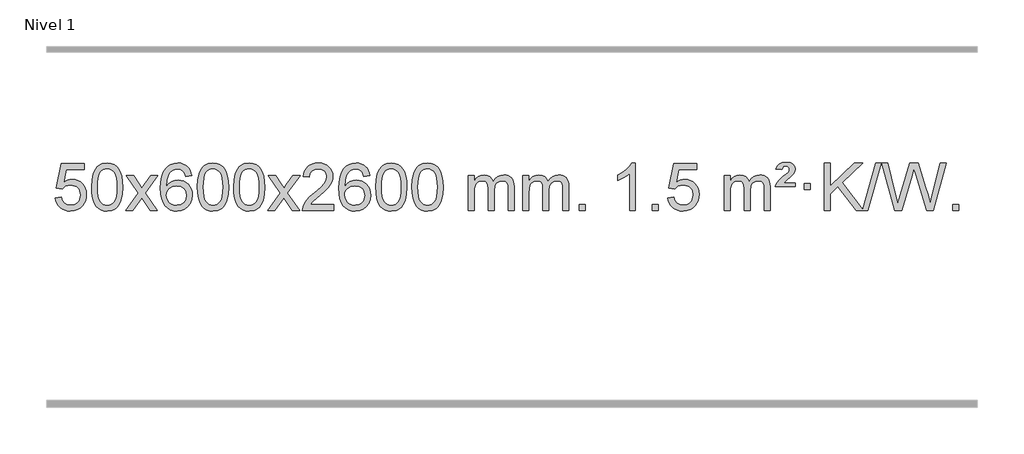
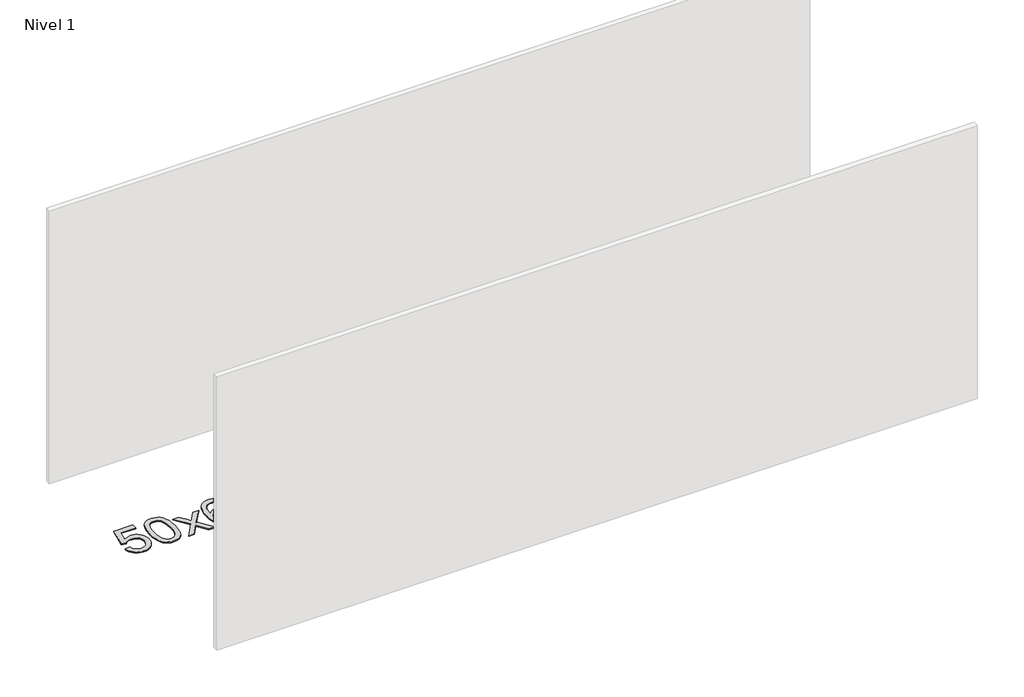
# One storey, part 7 of 9: 1 proxy.
"""IFC4 building model written with IfcOpenShell, lengths in millimetres."""

from ifc_helpers import new_model, si_unit, origin, origin_with_axes, place, context, project, spatial, polyline, outline, extrude, element, save

model = new_model("IFC4")

# Units and contexts
model_context = context("Model", 3, world=origin())
ifc_project = project(units=[si_unit("LENGTHUNIT", "METRE", prefix="MILLI")], contexts=[model_context])

# Site, building, storey
site = spatial("IfcSite", under=ifc_project)
building = spatial("IfcBuilding", under=site)
storey = spatial("IfcBuildingStorey", under=building, Name="Nivel 1", Elevation=0.0)

# Proxy
placement = place(None, origin())
element("IfcBuildingElementProxy", 1, Name="Texto de modelo 1", ObjectType="Texto de modelo 1", at=placement, inside=storey, context=model_context, shape_type="SweptSolid", body=[
    extrude(outline(polyline([(5243.8302895, -284.8446235), (5294.0584446, -278.5661041), (5303.28002, -308.7201649), (5319.3687259, -330.3148381), (5342.250986, -343.3010725), (5371.8532239, -347.6298173), (5390.9830876, -346.1245668), (5407.8566085, -341.6088153), (5422.4737864, -334.0825628), (5434.8346214, -323.5458094), (5444.6632021, -310.519721), (5451.6836168, -295.5254641), (5457.2999486, -259.6324441), (5452.0392361, -225.8363514), (5445.4633454, -211.9181493), (5436.2570985, -199.9865099), (5424.3898385, -190.4154467), (5409.8309085, -183.5789729), (5372.6380388, -178.1097939), (5348.271988, -180.2925604), (5328.5412503, -186.8408599), (5312.7836382, -196.8717757), (5300.336964, -209.5023908), (5250.1088089, -203.2238715), (5294.0584446, 3.9672682), (5488.6925455, 3.9672682), (5488.6925455, -46.2608869), (5334.6726169, -46.2608869), (5313.1883084, -156.919791), (5330.9140892, -144.2155994), (5349.0690656, -135.1411769), (5367.6532377, -129.6965234), (5386.6666055, -127.8816388), (5411.1276925, -130.1318504), (5433.5960854, -136.882485), (5454.0717841, -148.1335427), (5472.5547887, -163.8850234), (5487.855614, -183.1743027), (5498.7847749, -205.038756), (5505.3422715, -229.4783832), (5507.5281037, -256.4931844), (5505.559935, -282.5147042), (5499.655429, -306.7213394), (5489.8145856, -329.1130902), (5476.0374049, -349.6899565), (5455.166233, -370.7634634), (5430.812445, -385.8159684), (5402.9760407, -394.8474714), (5371.6570201, -397.8579724), (5345.7366679, -395.9235262), (5322.3240446, -390.1201877), (5301.4191502, -380.447957), (5283.0219848, -366.9068338), (5267.7150281, -350.1712688), (5256.08076, -330.915712), (5248.1191805, -309.1401636), (5243.8302895, -284.8446235)])), origin_with_axes(), (0.0, 0.0, 1.0), 10.0),
    extrude(outline(polyline([(5551.4777394, -193.9041943), (5555.1688221, -129.5861588), (5566.2420701, -78.2911459), (5584.5871189, -39.2343407), (5596.4451819, -24.0009605), (5610.0936039, -11.6309284), (5625.5783702, -2.0598651), (5642.9454661, 4.7766086), (5683.3266464, 10.2457876), (5714.277785, 7.008426), (5741.9915619, -2.7036586), (5765.1681276, -18.5103217), (5782.5076323, -40.0314184), (5795.6042314, -67.0830078), (5806.05208, -99.4811488), (5812.8946851, -140.6226186), (5815.1755535, -193.9041943), (5811.521259, -257.8543477), (5800.5583756, -309.0267333), (5782.3236913, -348.1203266), (5770.4932195, -363.3996922), (5756.8539945, -375.8341036), (5741.3508341, -385.4695462), (5723.928556, -392.3520052), (5683.3266464, -397.8579724), (5655.6619204, -395.4667394), (5631.1364541, -388.2930405), (5609.7502474, -376.3368757), (5591.5033004, -359.5982449), (5573.9921175, -329.3399508), (5561.4841296, -291.6381776), (5553.9793369, -246.4929255), (5551.4777394, -193.9041943)]), holes=[polyline([(5601.7058944, -193.8060924), (5603.1774224, -237.4706195), (5607.5920064, -272.8148822), (5614.9496463, -299.8388804), (5625.2503421, -318.5426142), (5637.709279, -331.2682656), (5651.5416421, -340.3580165), (5666.7474312, -345.8118671), (5683.3266464, -347.6298173), (5699.9058617, -345.8057357), (5715.1116508, -340.3334911), (5728.9440138, -331.2130833), (5741.4029507, -318.4445124), (5751.7036466, -299.7101217), (5759.0612865, -272.6922549), (5763.4758705, -237.3909118), (5764.9473984, -193.8060924), (5763.5249214, -151.2973278), (5759.2574902, -116.5753989), (5752.145105, -89.6403055), (5742.1877657, -70.4920476), (5729.9372952, -57.1440625), (5715.9455167, -47.6097875), (5700.21243, -41.8892225), (5682.7380352, -39.9823675), (5666.2446591, -41.6623619), (5651.2963874, -46.7023452), (5637.89322, -55.1023175), (5626.0351571, -66.8622786), (5615.3911047, -87.708925), (5607.7882101, -115.8151094), (5603.2264734, -151.1808319), (5601.7058944, -193.8060924)])]), origin_with_axes(), (0.0, 0.0, 1.0), 10.0),
    extrude(outline(polyline([(5840.2896311, -391.579453), (5947.6130718, -243.2494325), (5846.5681504, -96.4890419), (5906.9988995, -96.4890419), (5955.7555266, -167.122385), (5978.5151594, -200.4770192), (5998.2336343, -173.2047007), (6053.7592901, -96.4890419), (6114.1900392, -96.4890419), (6008.0438209, -243.2494325), (6110.2659646, -391.579453), (6049.8352155, -391.579453), (5988.3253459, -302.4048574), (5977.0436314, -286.1199477), (5900.7203801, -391.579453), (5840.2896311, -391.579453)])), origin_with_axes(), (0.0, 0.0, 1.0), 10.0),
    extrude(outline(polyline([(6399.0778563, -96.4890419), (6348.8497012, -102.7675613), (6340.7562973, -77.874213), (6329.8179393, -60.8780648), (6307.0337811, -45.2062918), (6279.4916824, -39.9823675), (6256.1434384, -43.0235253), (6234.1686206, -52.1469988), (6215.2962742, -71.3627017), (6199.8820186, -97.8134171), (6189.4709581, -135.227016), (6185.6081972, -187.3313693), (6205.7558678, -163.8237098), (6229.9011894, -147.2567573), (6256.6952614, -137.434308), (6284.7891831, -134.1601582), (6308.922242, -136.398107), (6331.1913654, -143.1119534), (6351.5965534, -154.3016975), (6370.137806, -169.9673391), (6385.5459302, -189.1769106), (6396.5517332, -210.9984443), (6403.155215, -235.4319401), (6405.3563756, -262.4773982), (6401.2115718, -298.4439945), (6388.7771604, -331.786366), (6369.0832109, -360.0642287), (6343.159793, -380.8372987), (6312.184129, -393.602804), (6277.3334413, -397.8579724), (6247.3909126, -395.0375437), (6220.3485203, -386.5762579), (6196.2062643, -372.4741147), (6174.9641448, -352.7311143), (6157.6460999, -326.5133908), (6145.2760678, -292.9870783), (6137.8540485, -252.1521768), (6135.3800421, -204.0086864), (6138.1268943, -150.0342663), (6146.367451, -103.9693092), (6160.1017122, -65.8138149), (6179.3296778, -35.5677835), (6200.1701928, -15.5243462), (6224.3339085, -1.2076052), (6251.820825, 7.3824394), (6282.6309421, 10.2457876), (6305.7645882, 8.4738227), (6326.7032051, 3.1579278), (6345.4467927, -5.7018969), (6361.9953511, -18.1056515), (6375.9012906, -33.6364031), (6386.7170212, -51.8772186), (6394.4425431, -72.8280983), (6399.0778563, -96.4890419)]), holes=[polyline([(6185.6081972, -261.6925832), (6188.514465, -283.9494439), (6197.2332682, -305.2007605), (6210.7713257, -323.472233), (6228.1353558, -336.7895612), (6249.0923668, -344.9197533), (6273.4093667, -347.6298173), (6306.5555345, -342.0134855), (6320.4706709, -334.9930708), (6332.6138425, -325.1644901), (6342.4638829, -312.9262824), (6349.499626, -298.6769865), (6355.1282206, -264.1451299), (6349.5732024, -230.9989621), (6342.6294298, -217.3781312), (6332.9081481, -205.725469), (6320.7281883, -196.3904634), (6306.4083817, -189.7226022), (6271.3492275, -184.3883133), (6238.2521107, -189.7226022), (6210.5751219, -205.725469), (6199.6520924, -217.2248471), (6191.8499284, -230.3858254), (6187.16863, -245.2084042), (6185.6081972, -261.6925832)])]), origin_with_axes(), (0.0, 0.0, 1.0), 10.0),
    extrude(outline(polyline([(6449.3060113, -193.9041943), (6452.997094, -129.5861588), (6464.0703421, -78.2911459), (6482.4153909, -39.2343407), (6494.2734539, -24.0009605), (6507.9218759, -11.6309284), (6523.4066422, -2.0598651), (6540.7737381, 4.7766086), (6581.1549184, 10.2457876), (6612.1060569, 7.008426), (6639.8198339, -2.7036586), (6662.9963996, -18.5103217), (6680.3359043, -40.0314184), (6693.4325033, -67.0830078), (6703.880352, -99.4811488), (6710.7229571, -140.6226186), (6713.0038255, -193.9041943), (6709.349531, -257.8543477), (6698.3866475, -309.0267333), (6680.1519633, -348.1203266), (6668.3214915, -363.3996922), (6654.6822665, -375.8341036), (6639.1791061, -385.4695462), (6621.7568279, -392.3520052), (6581.1549184, -397.8579724), (6553.4901924, -395.4667394), (6528.964726, -388.2930405), (6507.5785194, -376.3368757), (6489.3315724, -359.5982449), (6471.8203894, -329.3399508), (6459.3124016, -291.6381776), (6451.8076089, -246.4929255), (6449.3060113, -193.9041943)]), holes=[polyline([(6499.5341664, -193.8060924), (6501.0056944, -237.4706195), (6505.4202783, -272.8148822), (6512.7779182, -299.8388804), (6523.0786141, -318.5426142), (6535.537551, -331.2682656), (6549.369914, -340.3580165), (6564.5757032, -345.8118671), (6581.1549184, -347.6298173), (6597.7341337, -345.8057357), (6612.9399228, -340.3334911), (6626.7722858, -331.2130833), (6639.2312227, -318.4445124), (6649.5319186, -299.7101217), (6656.8895585, -272.6922549), (6661.3041424, -237.3909118), (6662.7756704, -193.8060924), (6661.3531934, -151.2973278), (6657.0857622, -116.5753989), (6649.973377, -89.6403055), (6640.0160376, -70.4920476), (6627.7655672, -57.1440625), (6613.7737886, -47.6097875), (6598.040702, -41.8892225), (6580.5663072, -39.9823675), (6564.0729311, -41.6623619), (6549.1246594, -46.7023452), (6535.721492, -55.1023175), (6523.863429, -66.8622786), (6513.2193766, -87.708925), (6505.6164821, -115.8151094), (6501.0547453, -151.1808319), (6499.5341664, -193.8060924)])]), origin_with_axes(), (0.0, 0.0, 1.0), 10.0),
    extrude(outline(polyline([(6756.9534612, -193.9041943), (6760.6445439, -129.5861588), (6771.7177919, -78.2911459), (6790.0628407, -39.2343407), (6801.9209037, -24.0009605), (6815.5693257, -11.6309284), (6831.054092, -2.0598651), (6848.4211879, 4.7766086), (6888.8023682, 10.2457876), (6919.7535068, 7.008426), (6947.4672837, -2.7036586), (6970.6438494, -18.5103217), (6987.9833541, -40.0314184), (7001.0799532, -67.0830078), (7011.5278018, -99.4811488), (7018.3704069, -140.6226186), (7020.6512753, -193.9041943), (7016.9969808, -257.8543477), (7006.0340974, -309.0267333), (6987.7994131, -348.1203266), (6975.9689413, -363.3996922), (6962.3297163, -375.8341036), (6946.8265559, -385.4695462), (6929.4042778, -392.3520052), (6888.8023682, -397.8579724), (6861.1376422, -395.4667394), (6836.6121759, -388.2930405), (6815.2259692, -376.3368757), (6796.9790222, -359.5982449), (6779.4678393, -329.3399508), (6766.9598514, -291.6381776), (6759.4550587, -246.4929255), (6756.9534612, -193.9041943)]), holes=[polyline([(6807.1816162, -193.8060924), (6808.6531442, -237.4706195), (6813.0677282, -272.8148822), (6820.4253681, -299.8388804), (6830.7260639, -318.5426142), (6843.1850008, -331.2682656), (6857.0173639, -340.3580165), (6872.223153, -345.8118671), (6888.8023682, -347.6298173), (6905.3815835, -345.8057357), (6920.5873726, -340.3334911), (6934.4197356, -331.2130833), (6946.8786725, -318.4445124), (6957.1793684, -299.7101217), (6964.5370083, -272.6922549), (6968.9515923, -237.3909118), (6970.4231202, -193.8060924), (6969.0006432, -151.2973278), (6964.733212, -116.5753989), (6957.6208268, -89.6403055), (6947.6634875, -70.4920476), (6935.413017, -57.1440625), (6921.4212385, -47.6097875), (6905.6881518, -41.8892225), (6888.213757, -39.9823675), (6871.7203809, -41.6623619), (6856.7721092, -46.7023452), (6843.3689418, -55.1023175), (6831.5108789, -66.8622786), (6820.8668265, -87.708925), (6813.2639319, -115.8151094), (6808.7021952, -151.1808319), (6807.1816162, -193.8060924)])]), origin_with_axes(), (0.0, 0.0, 1.0), 10.0),
    extrude(outline(polyline([(7045.7653528, -391.579453), (7153.0887936, -243.2494325), (7052.0438722, -96.4890419), (7112.4746213, -96.4890419), (7161.2312484, -167.122385), (7183.9908812, -200.4770192), (7203.7093561, -173.2047007), (7259.2350119, -96.4890419), (7319.665761, -96.4890419), (7213.5195426, -243.2494325), (7315.7416864, -391.579453), (7255.3109373, -391.579453), (7193.8010677, -302.4048574), (7182.5193532, -286.1199477), (7106.1961019, -391.579453), (7045.7653528, -391.579453)])), origin_with_axes(), (0.0, 0.0, 1.0), 10.0),
    extrude(outline(polyline([(7604.5535781, -341.3512979), (7604.5535781, -391.579453), (7340.8557639, -391.579453), (7341.9594099, -373.8965918), (7346.2513665, -356.9494945), (7358.636727, -329.8856424), (7376.7610466, -303.6311307), (7402.9787702, -276.1503456), (7439.6443423, -245.4076736), (7493.845623, -197.2641831), (7526.3663913, -161.7267824), (7542.6267755, -132.884834), (7548.0469036, -104.8277005), (7542.9333439, -79.6768347), (7527.5926647, -58.7688747), (7504.0114288, -44.6789943), (7474.176199, -39.9823675), (7442.8449157, -44.5686297), (7418.5033904, -58.3274163), (7402.7948292, -80.1796068), (7397.3624384, -109.0460807), (7347.1342833, -102.7675613), (7351.4538311, -76.838012), (7359.3111773, -54.1826125), (7370.7063221, -34.8013627), (7385.6392655, -18.6942627), (7403.7666508, -6.0329907), (7424.7451215, 3.010775), (7448.5746778, 8.4370345), (7475.2553195, 10.2457876), (7502.1750845, 8.2346994), (7526.1333994, 2.2014346), (7547.1302643, -7.8540066), (7565.1656791, -21.9316242), (7579.6510327, -38.9890861), (7589.9977138, -57.9840598), (7596.2057224, -78.9165453), (7598.2750587, -101.7865427), (7596.0432412, -125.8092369), (7589.3477889, -149.4149983), (7577.4652005, -173.4254299), (7559.6719746, -198.6621347), (7531.3082728, -228.7916701), (7487.7142564, -267.4805933), (7429.9322577, -315.795762), (7407.2707268, -341.3512979), (7604.5535781, -341.3512979)])), origin_with_axes(), (0.0, 0.0, 1.0), 10.0),
    extrude(outline(polyline([(7912.2010279, -96.4890419), (7861.9728728, -102.7675613), (7853.8794689, -77.874213), (7842.9411109, -60.8780648), (7820.1569527, -45.2062918), (7792.614854, -39.9823675), (7769.26661, -43.0235253), (7747.2917922, -52.1469988), (7728.4194458, -71.3627017), (7713.0051902, -97.8134171), (7702.5941298, -135.227016), (7698.7313688, -187.3313693), (7718.8790394, -163.8237098), (7743.024361, -147.2567573), (7769.818433, -137.434308), (7797.9123547, -134.1601582), (7822.0454136, -136.398107), (7844.314537, -143.1119534), (7864.719725, -154.3016975), (7883.2609776, -169.9673391), (7898.6691018, -189.1769106), (7909.6749049, -210.9984443), (7916.2783867, -235.4319401), (7918.4795473, -262.4773982), (7914.3347435, -298.4439945), (7901.900332, -331.786366), (7882.2063825, -360.0642287), (7856.2829646, -380.8372987), (7825.3073006, -393.602804), (7790.4566129, -397.8579724), (7760.5140842, -395.0375437), (7733.4716919, -386.5762579), (7709.329436, -372.4741147), (7688.0873164, -352.7311143), (7670.7692715, -326.5133908), (7658.3992394, -292.9870783), (7650.9772202, -252.1521768), (7648.5032137, -204.0086864), (7651.250066, -150.0342663), (7659.4906227, -103.9693092), (7673.2248838, -65.8138149), (7692.4528494, -35.5677835), (7713.2933645, -15.5243462), (7737.4570802, -1.2076052), (7764.9439966, 7.3824394), (7795.7541137, 10.2457876), (7818.8877598, 8.4738227), (7839.8263767, 3.1579278), (7858.5699644, -5.7018969), (7875.1185228, -18.1056515), (7889.0244622, -33.6364031), (7899.8401928, -51.8772186), (7907.5657147, -72.8280983), (7912.2010279, -96.4890419)]), holes=[polyline([(7698.7313688, -261.6925832), (7701.6376366, -283.9494439), (7710.3564399, -305.2007605), (7723.8944973, -323.472233), (7741.2585275, -336.7895612), (7762.2155385, -344.9197533), (7786.5325383, -347.6298173), (7819.6787061, -342.0134855), (7833.5938426, -334.9930708), (7845.7370141, -325.1644901), (7855.5870545, -312.9262824), (7862.6227977, -298.6769865), (7868.2513922, -264.1451299), (7862.6963741, -230.9989621), (7855.7526014, -217.3781312), (7846.0313197, -205.725469), (7833.85136, -196.3904634), (7819.5315533, -189.7226022), (7784.4723992, -184.3883133), (7751.3752823, -189.7226022), (7723.6982936, -205.725469), (7712.775264, -217.2248471), (7704.9731, -230.3858254), (7700.2918016, -245.2084042), (7698.7313688, -261.6925832)])]), origin_with_axes(), (0.0, 0.0, 1.0), 10.0),
    extrude(outline(polyline([(7962.429183, -193.9041943), (7966.1202656, -129.5861588), (7977.1935137, -78.2911459), (7995.5385625, -39.2343407), (8007.3966255, -24.0009605), (8021.0450475, -11.6309284), (8036.5298138, -2.0598651), (8053.8969097, 4.7766086), (8094.27809, 10.2457876), (8125.2292286, 7.008426), (8152.9430055, -2.7036586), (8176.1195712, -18.5103217), (8193.4590759, -40.0314184), (8206.555675, -67.0830078), (8217.0035236, -99.4811488), (8223.8461287, -140.6226186), (8226.1269971, -193.9041943), (8222.4727026, -257.8543477), (8211.5098192, -309.0267333), (8193.2751349, -348.1203266), (8181.4446631, -363.3996922), (8167.8054381, -375.8341036), (8152.3022777, -385.4695462), (8134.8799996, -392.3520052), (8094.27809, -397.8579724), (8066.613364, -395.4667394), (8042.0878976, -388.2930405), (8020.701691, -376.3368757), (8002.454744, -359.5982449), (7984.9435611, -329.3399508), (7972.4355732, -291.6381776), (7964.9307805, -246.4929255), (7962.429183, -193.9041943)]), holes=[polyline([(8012.657338, -193.8060924), (8014.128866, -237.4706195), (8018.54345, -272.8148822), (8025.9010899, -299.8388804), (8036.2017857, -318.5426142), (8048.6607226, -331.2682656), (8062.4930856, -340.3580165), (8077.6988748, -345.8118671), (8094.27809, -347.6298173), (8110.8573053, -345.8057357), (8126.0630944, -340.3334911), (8139.8954574, -331.2130833), (8152.3543943, -318.4445124), (8162.6550902, -299.7101217), (8170.0127301, -272.6922549), (8174.427314, -237.3909118), (8175.898842, -193.8060924), (8174.476365, -151.2973278), (8170.2089338, -116.5753989), (8163.0965486, -89.6403055), (8153.1392093, -70.4920476), (8140.8887388, -57.1440625), (8126.8969603, -47.6097875), (8111.1638736, -41.8892225), (8093.6894788, -39.9823675), (8077.1961027, -41.6623619), (8062.247831, -46.7023452), (8048.8446636, -55.1023175), (8036.9866007, -66.8622786), (8026.3425483, -87.708925), (8018.7396537, -115.8151094), (8014.1779169, -151.1808319), (8012.657338, -193.8060924)])]), origin_with_axes(), (0.0, 0.0, 1.0), 10.0),
    extrude(outline(polyline([(8270.0766328, -193.9041943), (8273.7677155, -129.5861588), (8284.8409635, -78.2911459), (8303.1860124, -39.2343407), (8315.0440753, -24.0009605), (8328.6924974, -11.6309284), (8344.1772637, -2.0598651), (8361.5443595, 4.7766086), (8401.9255399, 10.2457876), (8432.8766784, 7.008426), (8460.5904554, -2.7036586), (8483.7670211, -18.5103217), (8501.1065258, -40.0314184), (8514.2031248, -67.0830078), (8524.6509735, -99.4811488), (8531.4935786, -140.6226186), (8533.7744469, -193.9041943), (8530.1201525, -257.8543477), (8519.157269, -309.0267333), (8500.9225848, -348.1203266), (8489.0921129, -363.3996922), (8475.452888, -375.8341036), (8459.9497276, -385.4695462), (8442.5274494, -392.3520052), (8401.9255399, -397.8579724), (8374.2608138, -395.4667394), (8349.7353475, -388.2930405), (8328.3491408, -376.3368757), (8310.1021939, -359.5982449), (8292.5910109, -329.3399508), (8280.0830231, -291.6381776), (8272.5782304, -246.4929255), (8270.0766328, -193.9041943)]), holes=[polyline([(8320.3047879, -193.8060924), (8321.7763158, -237.4706195), (8326.1908998, -272.8148822), (8333.5485397, -299.8388804), (8343.8492356, -318.5426142), (8356.3081725, -331.2682656), (8370.1405355, -340.3580165), (8385.3463246, -345.8118671), (8401.9255399, -347.6298173), (8418.5047551, -345.8057357), (8433.7105442, -340.3334911), (8447.5429073, -331.2130833), (8460.0018442, -318.4445124), (8470.30254, -299.7101217), (8477.6601799, -272.6922549), (8482.0747639, -237.3909118), (8483.5462919, -193.8060924), (8482.1238148, -151.2973278), (8477.8563837, -116.5753989), (8470.7439984, -89.6403055), (8460.7866591, -70.4920476), (8448.5361887, -57.1440625), (8434.5444101, -47.6097875), (8418.8113234, -41.8892225), (8401.3369287, -39.9823675), (8384.8435526, -41.6623619), (8369.8952808, -46.7023452), (8356.4921135, -55.1023175), (8344.6340505, -66.8622786), (8333.9899981, -87.708925), (8326.3871035, -115.8151094), (8321.8253668, -151.1808319), (8320.3047879, -193.8060924)])]), origin_with_axes(), (0.0, 0.0, 1.0), 10.0),
    extrude(outline(polyline([(8747.244106, -391.579453), (8747.244106, -96.4890419), (8797.4722611, -96.4890419), (8797.4722611, -145.0494653), (8812.5799483, -122.7435537), (8832.0041177, -105.2691589), (8855.0825815, -93.9751816), (8881.1531522, -90.2105225), (8909.0876584, -94.048758), (8931.4794092, -105.5634645), (8948.2057772, -123.9943524), (8959.1441352, -148.5811324), (8977.4523959, -123.0439906), (8998.3358304, -104.803175), (9021.794439, -93.8586857), (9047.8282215, -90.2105225), (9067.9360383, -91.7280358), (9085.585177, -96.2805755), (9100.7756377, -103.8681416), (9113.5074204, -114.4907342), (9123.5720587, -128.2709806), (9130.761086, -145.3315082), (9135.0745024, -165.6723168), (9136.5123078, -189.2934066), (9136.5123078, -391.579453), (9086.2841528, -391.579453), (9086.2841528, -210.875817), (9085.1191931, -185.8230531), (9081.6243142, -168.9372695), (9075.0760146, -157.3735121), (9064.7507933, -148.2868268), (9051.4702533, -142.4007149), (9036.0559977, -140.4386776), (9008.8449928, -145.4663982), (8986.6617085, -160.54956), (8978.0563355, -172.1194488), (8971.9096405, -186.7182326), (8966.9922845, -225.0024856), (8966.9922845, -391.579453), (8916.7641294, -391.579453), (8916.7641294, -205.2840106), (8913.8578616, -176.8835206), (8905.1390583, -156.6254854), (8889.7983791, -144.4853796), (8867.0264836, -140.4386776), (8847.6758907, -143.1364789), (8829.8458767, -151.2298828), (8815.1305968, -164.5226856), (8805.1242066, -182.8186835), (8799.3852475, -208.2025411), (8797.4722611, -242.7589232), (8797.4722611, -391.579453), (8747.244106, -391.579453)])), origin_with_axes(), (0.0, 0.0, 1.0), 10.0),
    extrude(outline(polyline([(9211.8545404, -391.579453), (9211.8545404, -96.4890419), (9262.0826955, -96.4890419), (9262.0826955, -145.0494653), (9277.1903828, -122.7435537), (9296.6145521, -105.2691589), (9319.693016, -93.9751816), (9345.7635867, -90.2105225), (9373.6980929, -94.048758), (9396.0898436, -105.5634645), (9412.8162117, -123.9943524), (9423.7545697, -148.5811324), (9442.0628303, -123.0439906), (9462.9462649, -104.803175), (9486.4048734, -93.8586857), (9512.438656, -90.2105225), (9532.5464727, -91.7280358), (9550.1956114, -96.2805755), (9565.3860721, -103.8681416), (9578.1178548, -114.4907342), (9588.1824931, -128.2709806), (9595.3715204, -145.3315082), (9599.6849368, -165.6723168), (9601.1227423, -189.2934066), (9601.1227423, -391.579453), (9550.8945872, -391.579453), (9550.8945872, -210.875817), (9549.7296276, -185.8230531), (9546.2347486, -168.9372695), (9539.6864491, -157.3735121), (9529.3612278, -148.2868268), (9516.0806877, -142.4007149), (9500.6664321, -140.4386776), (9473.4554272, -145.4663982), (9451.2721429, -160.54956), (9442.6667699, -172.1194488), (9436.5200749, -186.7182326), (9431.6027189, -225.0024856), (9431.6027189, -391.579453), (9381.3745638, -391.579453), (9381.3745638, -205.2840106), (9378.4682961, -176.8835206), (9369.7494928, -156.6254854), (9354.4088136, -144.4853796), (9331.6369181, -140.4386776), (9312.2863251, -143.1364789), (9294.4563111, -151.2298828), (9279.7410313, -164.5226856), (9269.734641, -182.8186835), (9263.9956819, -208.2025411), (9262.0826955, -242.7589232), (9262.0826955, -391.579453), (9211.8545404, -391.579453)])), origin_with_axes(), (0.0, 0.0, 1.0), 10.0),
    extrude(outline(polyline([(9689.0220137, -391.579453), (9689.0220137, -341.3512979), (9739.2501687, -341.3512979), (9739.2501687, -391.579453), (9689.0220137, -391.579453)])), origin_with_axes(), (0.0, 0.0, 1.0), 10.0),
    extrude(outline(polyline([(10166.1894869, -391.579453), (10115.9613318, -391.579453), (10115.9613318, -78.4382987), (10094.9920581, -95.3976587), (10068.3819271, -112.3324932), (10015.5050216, -137.6918254), (10015.5050216, -90.2105225), (10054.9542343, -68.7507395), (10089.1304716, -43.219729), (10116.0716964, -16.0700378), (10133.8158713, 10.2457876), (10166.1894869, 10.2457876), (10166.1894869, -391.579453)])), origin_with_axes(), (0.0, 0.0, 1.0), 10.0),
    extrude(outline(polyline([(10310.5954327, -391.579453), (10310.5954327, -341.3512979), (10360.8235878, -341.3512979), (10360.8235878, -391.579453), (10310.5954327, -391.579453)])), origin_with_axes(), (0.0, 0.0, 1.0), 10.0),
    extrude(outline(polyline([(10442.4443398, -284.8446235), (10492.6724949, -278.5661041), (10501.8940702, -308.7201649), (10517.9827761, -330.3148381), (10540.8650362, -343.3010725), (10570.4672741, -347.6298173), (10589.5971379, -346.1245668), (10606.4706587, -341.6088153), (10621.0878366, -334.0825628), (10633.4486717, -323.5458094), (10643.2772523, -310.519721), (10650.2976671, -295.5254641), (10655.9139988, -259.6324441), (10650.6532863, -225.8363514), (10644.0773957, -211.9181493), (10634.8711487, -199.9865099), (10623.0038887, -190.4154467), (10608.4449587, -183.5789729), (10571.252089, -178.1097939), (10546.8860382, -180.2925604), (10527.1553005, -186.8408599), (10511.3976884, -196.8717757), (10498.9510142, -209.5023908), (10448.7228592, -203.2238715), (10492.6724949, 3.9672682), (10687.3065958, 3.9672682), (10687.3065958, -46.2608869), (10533.2866671, -46.2608869), (10511.8023586, -156.919791), (10529.5281394, -144.2155994), (10547.6831159, -135.1411769), (10566.267288, -129.6965234), (10585.2806558, -127.8816388), (10609.7417428, -130.1318504), (10632.2101356, -136.882485), (10652.6858343, -148.1335427), (10671.1688389, -163.8850234), (10686.4696642, -183.1743027), (10697.3988252, -205.038756), (10703.9563217, -229.4783832), (10706.1421539, -256.4931844), (10704.1739852, -282.5147042), (10698.2694792, -306.7213394), (10688.4286359, -329.1130902), (10674.6514551, -349.6899565), (10653.7802833, -370.7634634), (10629.4264952, -385.8159684), (10601.5900909, -394.8474714), (10570.2710704, -397.8579724), (10544.3507181, -395.9235262), (10520.9380948, -390.1201877), (10500.0332004, -380.447957), (10481.636035, -366.9068338), (10466.3290783, -350.1712688), (10454.6948102, -330.915712), (10446.7332307, -309.1401636), (10442.4443398, -284.8446235)])), origin_with_axes(), (0.0, 0.0, 1.0), 10.0),
    extrude(outline(polyline([(10919.611813, -391.579453), (10919.611813, -96.4890419), (10969.8399681, -96.4890419), (10969.8399681, -145.0494653), (10984.9476553, -122.7435537), (11004.3718247, -105.2691589), (11027.4502885, -93.9751816), (11053.5208592, -90.2105225), (11081.4553654, -94.048758), (11103.8471162, -105.5634645), (11120.5734842, -123.9943524), (11131.5118422, -148.5811324), (11149.8201028, -123.0439906), (11170.7035374, -104.803175), (11194.162146, -93.8586857), (11220.1959285, -90.2105225), (11240.3037452, -91.7280358), (11257.952884, -96.2805755), (11273.1433447, -103.8681416), (11285.8751274, -114.4907342), (11295.9397656, -128.2709806), (11303.128793, -145.3315082), (11307.4422094, -165.6723168), (11308.8800148, -189.2934066), (11308.8800148, -391.579453), (11258.6518597, -391.579453), (11258.6518597, -210.875817), (11257.4869001, -185.8230531), (11253.9920211, -168.9372695), (11247.4437216, -157.3735121), (11237.1185003, -148.2868268), (11223.8379603, -142.4007149), (11208.4237047, -140.4386776), (11181.2126998, -145.4663982), (11159.0294155, -160.54956), (11150.4240424, -172.1194488), (11144.2773474, -186.7182326), (11139.3599914, -225.0024856), (11139.3599914, -391.579453), (11089.1318364, -391.579453), (11089.1318364, -205.2840106), (11086.2255686, -176.8835206), (11077.5067653, -156.6254854), (11062.1660861, -144.4853796), (11039.3941906, -140.4386776), (11020.0435977, -143.1364789), (11002.2135836, -151.2298828), (10987.4983038, -164.5226856), (10977.4919136, -182.8186835), (10971.7529544, -208.2025411), (10969.8399681, -242.7589232), (10969.8399681, -391.579453), (10919.611813, -391.579453)])), origin_with_axes(), (0.0, 0.0, 1.0), 10.0),
    extrude(outline(polyline([(11352.8296505, -190.6668327), (11356.6556233, -174.8479069), (11364.9942818, -158.9799302), (11386.5031158, -133.8413272), (11418.4597984, -106.1030247), (11462.6056379, -68.726214), (11469.7425486, -57.1992448), (11472.1215188, -45.3779701), (11470.2330579, -33.2869152), (11464.5676752, -23.5012541), (11455.198947, -17.026531), (11442.2004499, -14.8682899), (11429.7660384, -16.4869707), (11420.9123451, -21.343013), (11414.4866729, -30.8098431), (11409.336325, -46.2608869), (11359.1081699, -39.9823675), (11369.948426, -14.7701881), (11386.5766922, 2.7900458), (11410.3418691, 13.0907417), (11442.5928573, 16.524307), (11478.3755127, 12.3917659), (11503.1217083, -0.0058573), (11517.5426825, -18.3386434), (11522.3496739, -40.2766731), (11518.253921, -63.1834586), (11505.9666624, -84.8149199), (11485.438847, -104.6314968), (11448.9694786, -132.6886303), (11423.3648917, -159.2742358), (11522.3496739, -159.2742358), (11522.3496739, -190.6668327), (11352.8296505, -190.6668327)])), origin_with_axes(), (0.0, 0.0, 1.0), 10.0),
    extrude(outline(polyline([(11597.6919065, -215.7809102), (11597.6919065, -165.5527552), (11647.9200616, -165.5527552), (11647.9200616, -215.7809102), (11597.6919065, -215.7809102)])), origin_with_axes(), (0.0, 0.0, 1.0), 10.0),
    extrude(outline(polyline([(12038.5616895, -391.579453), (11885.1303721, -188.9009991), (11817.440085, -253.4520265), (11817.440085, -391.579453), (11767.2119299, -391.579453), (11767.2119299, 10.2457876), (11817.440085, 10.2457876), (11817.440085, -186.4484525), (12023.4540023, 10.2457876), (12093.6949379, 10.2457876), (11920.7413492, -154.9577537), (12095.3949591, -385.5349332), (12206.7082868, 10.2457876), (12252.0313486, 10.2457876), (12139.0179997, -391.579453), (12099.9734572, -391.579453), (12093.6949379, -391.579453), (12038.5616895, -391.579453)])), origin_with_axes(), (0.0, 0.0, 1.0), 10.0),
    extrude(outline(polyline([(12366.5162255, -391.579453), (12256.9364419, 10.2457876), (12308.7342268, 10.2457876), (12372.3042355, -253.844434), (12391.9246086, -335.3670841), (12412.9184078, -263.2622131), (12492.5771225, 10.2457876), (12567.2326421, 10.2457876), (12625.1127426, -188.0180823), (12649.9079891, -261.5944814), (12668.1794615, -335.3670841), (12687.2112234, -256.1988788), (12751.3698434, 10.2457876), (12803.1676283, 10.2457876), (12693.4897428, -391.579453), (12639.8280224, -391.579453), (12543.4919906, -81.5775584), (12530.0520351, -38.3146358), (12514.9443478, -90.4067263), (12427.1431783, -391.579453), (12366.5162255, -391.579453)])), origin_with_axes(), (0.0, 0.0, 1.0), 10.0),
    extrude(outline(polyline([(12859.6743028, -391.579453), (12859.6743028, -341.3512979), (12909.9024578, -341.3512979), (12909.9024578, -391.579453), (12859.6743028, -391.579453)])), origin_with_axes(), (0.0, 0.0, 1.0), 10.0),
])

save(model, "model.ifc")
